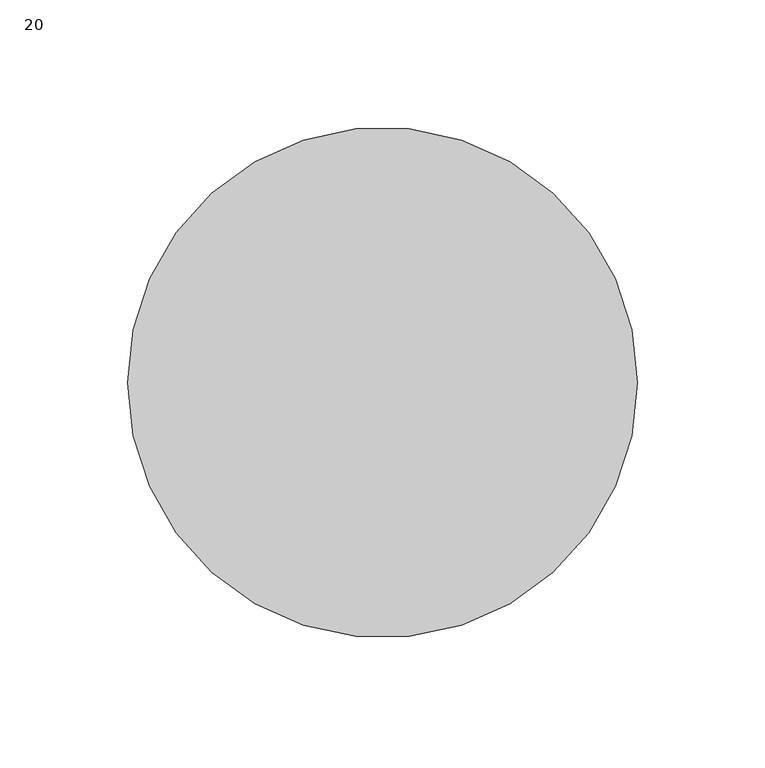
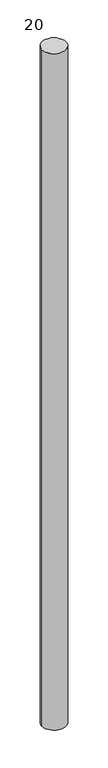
"""IFC4 building model written with IfcOpenShell, lengths in millimetres: column geometry, C&L poteau béton circulaire : 20."""

from ifc_helpers import new_model, si_unit, point, frame, origin, origin_2d, place, context, project, spatial, circle_curve, trimmed, segment, composite_curve, outline, extrude, source, transform, mapped, element, save


def column_20_f65bd805(model_context):
    return source(origin(), model_context, "Body", "SweptSolid", [
        extrude(outline(composite_curve([segment(trimmed(circle_curve(origin_2d(), 100.0), [point((-100.0, 0.0))], [point((100.0, 0.0))], False, "CARTESIAN"), True, "CONTINUOUS"), segment(trimmed(circle_curve(origin_2d(), 100.0), [point((100.0, 0.0))], [point((-100.0, 0.0))], False, "CARTESIAN"), True, "CONTINUOUS")], self_intersect=False)), frame((0.0, 0.0, -80.0), z_axis=(0.0, 0.0, 1.0), x_axis=(1.0, 0.0, 0.0)), (0.0, 0.0, 1.0), 5960.0),
    ])


if __name__ == "__main__":
    model = new_model("IFC4")
    model_context = context("Model", 3, world=origin())
    ifc_project = project(units=[si_unit("LENGTHUNIT", "METRE", prefix="MILLI")], contexts=[model_context])
    site = spatial("IfcSite", under=ifc_project)
    building = spatial("IfcBuilding", under=site)
    placement = place(None, origin())
    column_20_shape = column_20_f65bd805(model_context)
    element("IfcColumn", 1, ObjectType="C&L poteau béton circulaire : 20", at=placement, inside=building, context=model_context, shape_type="MappedRepresentation", body=[
        mapped(column_20_shape, transform((0.0, 0.0, 0.0), x_axis=(1.0, 0.0, 0.0), y_axis=(0.0, 1.0, 0.0), z_axis=(0.0, 0.0, 1.0))),
    ])
    save(model, "model.ifc")
